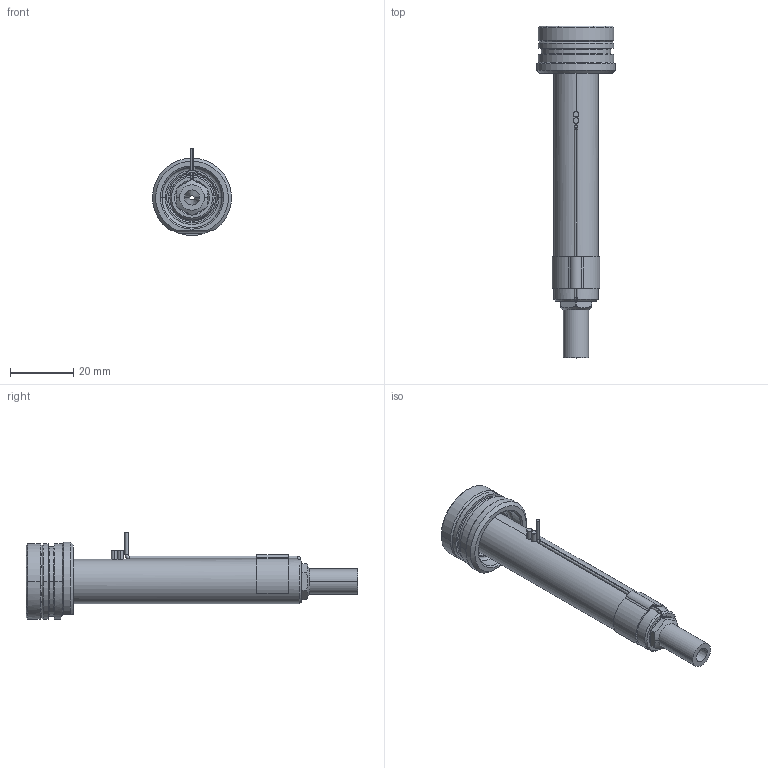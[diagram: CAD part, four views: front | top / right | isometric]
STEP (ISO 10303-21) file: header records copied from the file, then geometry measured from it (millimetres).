
FILE_DESCRIPTION((''),'2;1');
FILE_NAME('EO04_SG_ESG_080_SW','2024-02-19T12:13:36',('sundharh'),(''),'CREO PARAMETRIC BY PTC INC, 2023154','CREO PARAMETRIC BY PTC INC, 2023154','');
FILE_SCHEMA(('CONFIG_CONTROL_DESIGN'));
Length unit declared in the file: millimetre
Products named in the file (1): EO04_SG_ESG_080_SW
Bounding box: 24.99 x 105 x 27.5 mm (x, y, z)
Volume: 16903.3 mm3; surface area: 8699 mm2
Topology: 2 solids, 2 shells, 182 faces, 461 edges, 277 vertices
Faces by surface type: cylinder 67, plane 45, cone 34, torus 22, bspline 11, sphere 3
Entity records: 6386 total; most frequent: CARTESIAN_POINT 1991, DIRECTION 952, ORIENTED_EDGE 906, EDGE_CURVE 453, AXIS2_PLACEMENT_3D 396, VERTEX_POINT 277, CIRCLE 225, EDGE_LOOP 196
